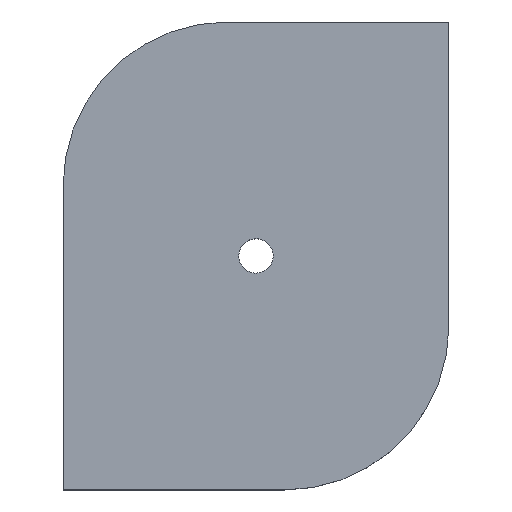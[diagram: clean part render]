
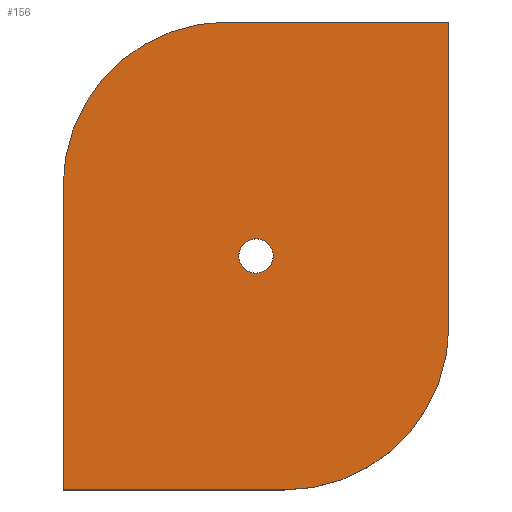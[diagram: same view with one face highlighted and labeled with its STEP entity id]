
A CAD part, top view. The second image highlights one B-rep face of the part: STEP entity #156.
In plain terms, the highlighted planar face has unit normal (0, 0, 1).
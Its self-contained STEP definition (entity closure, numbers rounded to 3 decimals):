
#63=CARTESIAN_POINT('Vertex',(43.325,59.008,9.)) ;
#77=CARTESIAN_POINT('Vertex',(50.675,54.992,9.)) ;
#80=CARTESIAN_POINT('Axis2P3D Location',(47.,57.,9.)) ;
#92=CARTESIAN_POINT('Axis2P3D Location',(0.,0.,9.)) ;
#97=CARTESIAN_POINT('Line Origine',(0.,37.,9.)) ;
#101=CARTESIAN_POINT('Vertex',(0.,74.,9.)) ;
#103=CARTESIAN_POINT('Vertex',(0.,0.,9.)) ;
#106=CARTESIAN_POINT('Line Origine',(27.,0.,9.)) ;
#110=CARTESIAN_POINT('Vertex',(54.,0.,9.)) ;
#113=CARTESIAN_POINT('Axis2P3D Location',(54.,40.,9.)) ;
#117=CARTESIAN_POINT('Vertex',(94.,40.,9.)) ;
#120=CARTESIAN_POINT('Line Origine',(94.,77.,9.)) ;
#124=CARTESIAN_POINT('Vertex',(94.,114.,9.)) ;
#127=CARTESIAN_POINT('Line Origine',(67.,114.,9.)) ;
#131=CARTESIAN_POINT('Vertex',(40.,114.,9.)) ;
#134=CARTESIAN_POINT('Axis2P3D Location',(40.,74.,9.)) ;
#147=CARTESIAN_POINT('Axis2P3D Location',(47.,57.,9.)) ;
#81=DIRECTION('Axis2P3D Direction',(0.,-0.,-1.)) ;
#93=DIRECTION('Axis2P3D Direction',(0.,0.,1.)) ;
#94=DIRECTION('Axis2P3D XDirection',(1.,0.,0.)) ;
#98=DIRECTION('Vector Direction',(0.,-1.,0.)) ;
#107=DIRECTION('Vector Direction',(1.,0.,0.)) ;
#114=DIRECTION('Axis2P3D Direction',(0.,0.,1.)) ;
#121=DIRECTION('Vector Direction',(0.,1.,0.)) ;
#128=DIRECTION('Vector Direction',(-1.,0.,0.)) ;
#135=DIRECTION('Axis2P3D Direction',(0.,0.,1.)) ;
#148=DIRECTION('Axis2P3D Direction',(0.,0.,1.)) ;
#82=AXIS2_PLACEMENT_3D('Circle Axis2P3D',#80,#81,$) ;
#95=AXIS2_PLACEMENT_3D('Plane Axis2P3D',#92,#93,#94) ;
#115=AXIS2_PLACEMENT_3D('Circle Axis2P3D',#113,#114,$) ;
#136=AXIS2_PLACEMENT_3D('Circle Axis2P3D',#134,#135,$) ;
#149=AXIS2_PLACEMENT_3D('Circle Axis2P3D',#147,#148,$) ;
#140=ORIENTED_EDGE('',*,*,#105,.T.) ;
#141=ORIENTED_EDGE('',*,*,#112,.T.) ;
#142=ORIENTED_EDGE('',*,*,#119,.F.) ;
#143=ORIENTED_EDGE('',*,*,#126,.T.) ;
#144=ORIENTED_EDGE('',*,*,#133,.T.) ;
#145=ORIENTED_EDGE('',*,*,#138,.F.) ;
#153=ORIENTED_EDGE('',*,*,#151,.F.) ;
#154=ORIENTED_EDGE('',*,*,#84,.F.) ;
#155=FACE_BOUND('',#152,.T.) ;
#99=VECTOR('Line Direction',#98,1.) ;
#108=VECTOR('Line Direction',#107,1.) ;
#122=VECTOR('Line Direction',#121,1.) ;
#129=VECTOR('Line Direction',#128,1.) ;
#156=ADVANCED_FACE('PartBody',(#146,#155),#96,.T.) ;
#83=CIRCLE('generated circle',#82,4.188) ;
#116=CIRCLE('generated circle',#115,40.) ;
#137=CIRCLE('generated circle',#136,40.) ;
#150=CIRCLE('generated circle',#149,4.188) ;
#84=EDGE_CURVE('',#78,#64,#83,.F.) ;
#105=EDGE_CURVE('',#102,#104,#100,.T.) ;
#112=EDGE_CURVE('',#104,#111,#109,.T.) ;
#119=EDGE_CURVE('',#118,#111,#116,.F.) ;
#126=EDGE_CURVE('',#118,#125,#123,.T.) ;
#133=EDGE_CURVE('',#125,#132,#130,.T.) ;
#138=EDGE_CURVE('',#102,#132,#137,.F.) ;
#151=EDGE_CURVE('',#64,#78,#150,.T.) ;
#139=EDGE_LOOP('',(#140,#141,#142,#143,#144,#145)) ;
#152=EDGE_LOOP('',(#153,#154)) ;
#146=FACE_OUTER_BOUND('',#139,.T.) ;
#100=LINE('Line',#97,#99) ;
#109=LINE('Line',#106,#108) ;
#123=LINE('Line',#120,#122) ;
#130=LINE('Line',#127,#129) ;
#96=PLANE('',#95) ;
#64=VERTEX_POINT('',#63) ;
#78=VERTEX_POINT('',#77) ;
#102=VERTEX_POINT('',#101) ;
#104=VERTEX_POINT('',#103) ;
#111=VERTEX_POINT('',#110) ;
#118=VERTEX_POINT('',#117) ;
#125=VERTEX_POINT('',#124) ;
#132=VERTEX_POINT('',#131) ;
